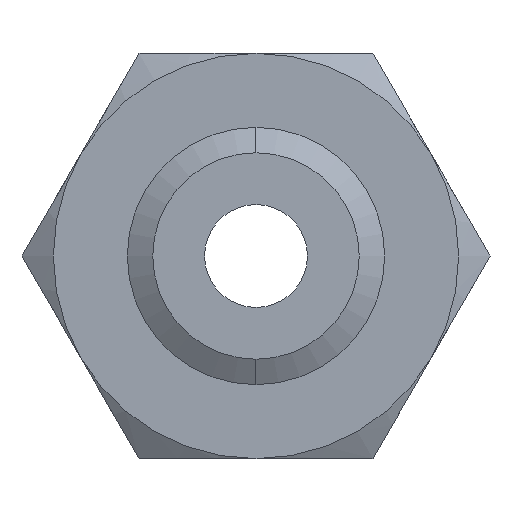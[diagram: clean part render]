
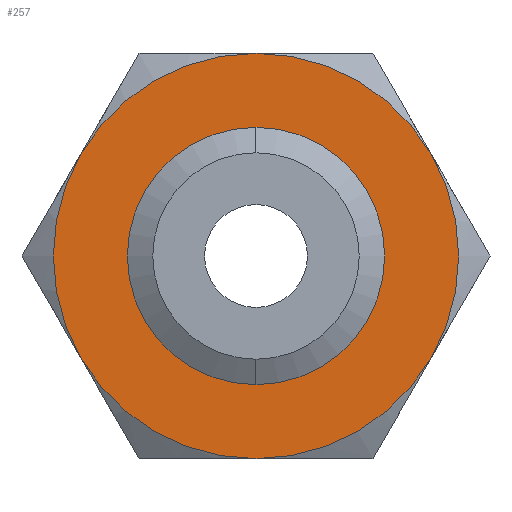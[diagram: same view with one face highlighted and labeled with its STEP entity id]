
A CAD part, front view. The second image highlights one B-rep face of the part: STEP entity #257.
In plain terms, the highlighted planar face has unit normal (0, -1, 0).
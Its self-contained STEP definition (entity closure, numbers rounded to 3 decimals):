
#125 = EDGE_CURVE ( 'NONE', #132, #148, #725, .T. ) ;
#132 = VERTEX_POINT ( 'NONE', #769 ) ;
#148 = VERTEX_POINT ( 'NONE', #740 ) ;
#230 = EDGE_LOOP ( 'NONE', ( #266, #267 ) ) ;
#253 = EDGE_LOOP ( 'NONE', ( #1951, #1945, #1946, #1937, #1940, #278 ) ) ;
#257 = ADVANCED_FACE ( 'NONE', ( #962, #961 ), #960, .F. ) ;
#263 = EDGE_CURVE ( 'NONE', #148, #132, #1006, .T. ) ;
#266 = ORIENTED_EDGE ( 'NONE', *, *, #125, .F. ) ;
#267 = ORIENTED_EDGE ( 'NONE', *, *, #263, .F. ) ;
#273 = EDGE_CURVE ( 'NONE', #274, #1939, #988, .T. ) ;
#274 = VERTEX_POINT ( 'NONE', #989 ) ;
#278 = ORIENTED_EDGE ( 'NONE', *, *, #279, .F. ) ;
#279 = EDGE_CURVE ( 'NONE', #1949, #274, #1041, .T. ) ;
#718 = DIRECTION ( 'NONE',  ( 0., 0., -1. ) ) ;
#719 = DIRECTION ( 'NONE',  ( 0., -1., 0. ) ) ;
#720 = CARTESIAN_POINT ( 'NONE',  ( 0., 0., 0. ) ) ;
#721 = AXIS2_PLACEMENT_3D ( 'NONE', #720, #719, #718 ) ;
#725 = CIRCLE ( 'NONE', #721, 12.731 ) ;
#740 = CARTESIAN_POINT ( 'NONE',  ( 0., 0., 12.731 ) ) ;
#769 = CARTESIAN_POINT ( 'NONE',  ( 0., 0., -12.731 ) ) ;
#958 = CARTESIAN_POINT ( 'NONE',  ( 14.434, 0., -25. ) ) ;
#959 = AXIS2_PLACEMENT_3D ( 'NONE', #958, #1019, #1018 ) ;
#960 = PLANE ( 'NONE',  #959 ) ;
#961 = FACE_BOUND ( 'NONE', #230, .T. ) ;
#962 = FACE_OUTER_BOUND ( 'NONE', #253, .T. ) ;
#987 = AXIS2_PLACEMENT_3D ( 'NONE', #1050, #1049, #1048 ) ;
#988 = CIRCLE ( 'NONE', #987, 25. ) ;
#989 = CARTESIAN_POINT ( 'NONE',  ( 21.651, 0., -12.5 ) ) ;
#1002 = DIRECTION ( 'NONE',  ( 0., 0., -1. ) ) ;
#1003 = DIRECTION ( 'NONE',  ( 0., -1., 0. ) ) ;
#1004 = CARTESIAN_POINT ( 'NONE',  ( 0., 0., 0. ) ) ;
#1005 = AXIS2_PLACEMENT_3D ( 'NONE', #1004, #1003, #1002 ) ;
#1006 = CIRCLE ( 'NONE', #1005, 12.731 ) ;
#1018 = DIRECTION ( 'NONE',  ( 0., 0., 1. ) ) ;
#1019 = DIRECTION ( 'NONE',  ( 0., 1., 0. ) ) ;
#1037 = DIRECTION ( 'NONE',  ( 0., 0., 1. ) ) ;
#1038 = DIRECTION ( 'NONE',  ( 0., 1., 0. ) ) ;
#1039 = CARTESIAN_POINT ( 'NONE',  ( 0., 0., 0. ) ) ;
#1040 = AXIS2_PLACEMENT_3D ( 'NONE', #1039, #1038, #1037 ) ;
#1041 = CIRCLE ( 'NONE', #1040, 25. ) ;
#1048 = DIRECTION ( 'NONE',  ( 0., 0., 1. ) ) ;
#1049 = DIRECTION ( 'NONE',  ( 0., 1., 0. ) ) ;
#1050 = CARTESIAN_POINT ( 'NONE',  ( 0., 0., 0. ) ) ;
#1508 = CIRCLE ( 'NONE', #1572, 25. ) ;
#1520 = CARTESIAN_POINT ( 'NONE',  ( 0., 0., -25. ) ) ;
#1521 = DIRECTION ( 'NONE',  ( 0., 0., 1. ) ) ;
#1522 = DIRECTION ( 'NONE',  ( 0., 1., 0. ) ) ;
#1523 = CARTESIAN_POINT ( 'NONE',  ( 0., 0., 0. ) ) ;
#1524 = AXIS2_PLACEMENT_3D ( 'NONE', #1523, #1522, #1521 ) ;
#1525 = CARTESIAN_POINT ( 'NONE',  ( -21.651, 0., -12.5 ) ) ;
#1532 = CIRCLE ( 'NONE', #1524, 25. ) ;
#1556 = DIRECTION ( 'NONE',  ( 0., 0., 1. ) ) ;
#1557 = DIRECTION ( 'NONE',  ( 0., 1., 0. ) ) ;
#1558 = CARTESIAN_POINT ( 'NONE',  ( 0., 0., 0. ) ) ;
#1559 = AXIS2_PLACEMENT_3D ( 'NONE', #1558, #1557, #1556 ) ;
#1560 = CIRCLE ( 'NONE', #1559, 25. ) ;
#1562 = CARTESIAN_POINT ( 'NONE',  ( 21.651, 0., 12.5 ) ) ;
#1563 = CARTESIAN_POINT ( 'NONE',  ( -21.651, 0., 12.5 ) ) ;
#1564 = CARTESIAN_POINT ( 'NONE',  ( 0., 0., 25. ) ) ;
#1565 = DIRECTION ( 'NONE',  ( 0., 0., 1. ) ) ;
#1566 = DIRECTION ( 'NONE',  ( 0., 1., 0. ) ) ;
#1567 = AXIS2_PLACEMENT_3D ( 'NONE', #1573, #1566, #1565 ) ;
#1568 = CIRCLE ( 'NONE', #1567, 25. ) ;
#1569 = DIRECTION ( 'NONE',  ( 0., 0., 1. ) ) ;
#1570 = DIRECTION ( 'NONE',  ( 0., 1., 0. ) ) ;
#1571 = CARTESIAN_POINT ( 'NONE',  ( 0., 0., 0. ) ) ;
#1572 = AXIS2_PLACEMENT_3D ( 'NONE', #1571, #1570, #1569 ) ;
#1573 = CARTESIAN_POINT ( 'NONE',  ( 0., 0., 0. ) ) ;
#1936 = EDGE_CURVE ( 'NONE', #1939, #1938, #1532, .T. ) ;
#1937 = ORIENTED_EDGE ( 'NONE', *, *, #1936, .F. ) ;
#1938 = VERTEX_POINT ( 'NONE', #1525 ) ;
#1939 = VERTEX_POINT ( 'NONE', #1520 ) ;
#1940 = ORIENTED_EDGE ( 'NONE', *, *, #273, .F. ) ;
#1943 = EDGE_CURVE ( 'NONE', #1948, #1947, #1508, .T. ) ;
#1944 = EDGE_CURVE ( 'NONE', #1938, #1948, #1568, .T. ) ;
#1945 = ORIENTED_EDGE ( 'NONE', *, *, #1943, .F. ) ;
#1946 = ORIENTED_EDGE ( 'NONE', *, *, #1944, .F. ) ;
#1947 = VERTEX_POINT ( 'NONE', #1564 ) ;
#1948 = VERTEX_POINT ( 'NONE', #1563 ) ;
#1949 = VERTEX_POINT ( 'NONE', #1562 ) ;
#1950 = EDGE_CURVE ( 'NONE', #1947, #1949, #1560, .T. ) ;
#1951 = ORIENTED_EDGE ( 'NONE', *, *, #1950, .F. ) ;
